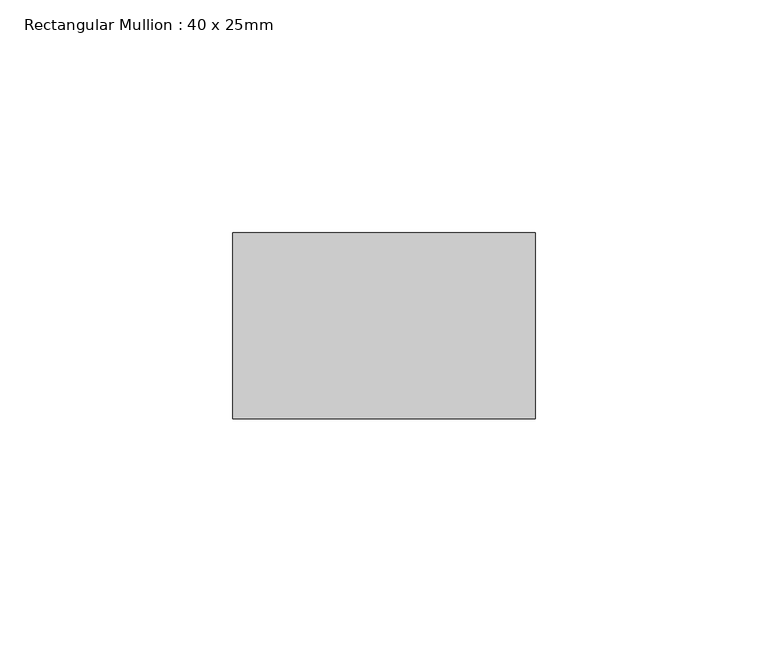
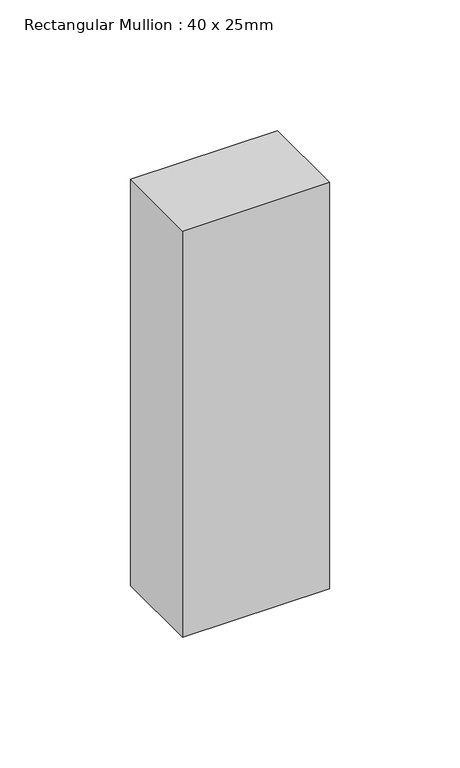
"""IFC4 building model written with IfcOpenShell, lengths in millimetres: member geometry, Rectangular Mullion : 40 x 25mm."""

from ifc_helpers import new_model, si_unit, frame, origin, place, context, project, spatial, polyline, outline, extrude, source, transform, mapped, element, save


def rectangular_mullion_40_x_25mm_d97abcc9(model_context):
    return source(origin(), model_context, "Body", "SweptSolid", [
        extrude(outline(polyline([(0.0, -20.0), (0.0, -60.0), (-65.0, -60.0), (-65.0, -20.0), (0.0, -20.0)])), frame((0.0, 0.0, -190.0), z_axis=(0.0, 0.0, 1.0), x_axis=(1.0, 0.0, 0.0)), (0.0, 0.0, 1.0), 190.0),
    ])


if __name__ == "__main__":
    model = new_model("IFC4")
    model_context = context("Model", 3, world=origin())
    ifc_project = project(units=[si_unit("LENGTHUNIT", "METRE", prefix="MILLI")], contexts=[model_context])
    site = spatial("IfcSite", under=ifc_project)
    building = spatial("IfcBuilding", under=site)
    placement = place(None, origin())
    rectangular_mullion_40_x_25mm_shape = rectangular_mullion_40_x_25mm_d97abcc9(model_context)
    element("IfcMember", 1, ObjectType="Rectangular Mullion : 40 x 25mm", at=placement, inside=building, context=model_context, shape_type="MappedRepresentation", body=[
        mapped(rectangular_mullion_40_x_25mm_shape, transform((0.0, 0.0, 0.0), x_axis=(1.0, 0.0, 0.0), y_axis=(0.0, 1.0, 0.0), z_axis=(0.0, 0.0, 1.0))),
    ])
    save(model, "model.ifc")
